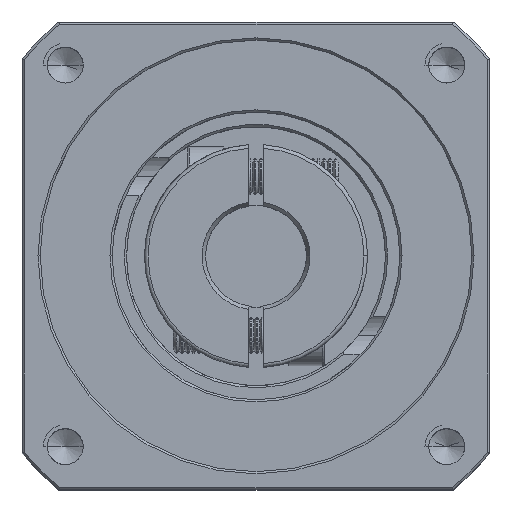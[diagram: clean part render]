
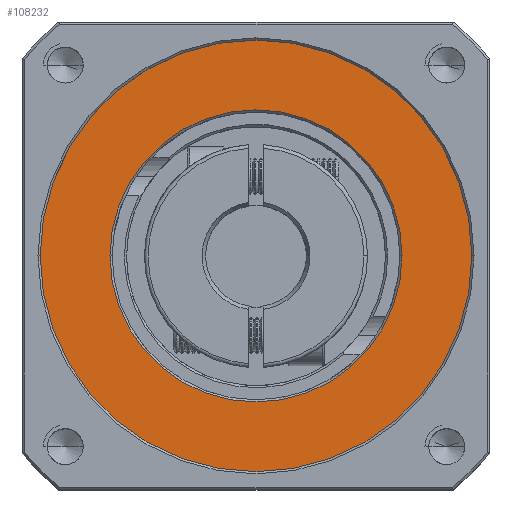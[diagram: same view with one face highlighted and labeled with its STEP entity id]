
A CAD part, top view. The second image highlights one B-rep face of the part: STEP entity #108232.
In plain terms, the highlighted planar face has unit normal (0, 0, 1).
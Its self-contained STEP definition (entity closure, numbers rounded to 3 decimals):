
#1067 = EDGE_CURVE ( 'NONE', #29381, #48872, #59379, .T. ) ;
#5656 = ORIENTED_EDGE ( 'NONE', *, *, #1067, .T. ) ;
#7263 = CARTESIAN_POINT ( 'NONE',  ( -43.269, 30.892, -1.973 ) ) ;
#7903 = CIRCLE ( 'NONE', #94607, 30. ) ;
#11936 = CARTESIAN_POINT ( 'NONE',  ( -22.969, 30.892, -1.973 ) ) ;
#13146 = CIRCLE ( 'NONE', #32726, 20.3 ) ;
#13423 = CARTESIAN_POINT ( 'NONE',  ( -43.269, 30.892, -1.973 ) ) ;
#13731 = CARTESIAN_POINT ( 'NONE',  ( -43.269, 30.892, -1.973 ) ) ;
#14299 = CIRCLE ( 'NONE', #109274, 20.3 ) ;
#14578 = EDGE_CURVE ( 'NONE', #48872, #29381, #7903, .T. ) ;
#14721 = ORIENTED_EDGE ( 'NONE', *, *, #60276, .T. ) ;
#20872 = EDGE_LOOP ( 'NONE', ( #5656, #34735 ) ) ;
#22278 = DIRECTION ( 'NONE',  ( 1., 0., 0. ) ) ;
#25704 = DIRECTION ( 'NONE',  ( 0., 0., 1. ) ) ;
#29381 = VERTEX_POINT ( 'NONE', #35975 ) ;
#29426 = FACE_OUTER_BOUND ( 'NONE', #20872, .T. ) ;
#32726 = AXIS2_PLACEMENT_3D ( 'NONE', #7263, #66705, #82556 ) ;
#34735 = ORIENTED_EDGE ( 'NONE', *, *, #14578, .T. ) ;
#35975 = CARTESIAN_POINT ( 'NONE',  ( -13.269, 30.892, -1.973 ) ) ;
#37607 = CARTESIAN_POINT ( 'NONE',  ( -63.569, 30.892, -1.973 ) ) ;
#42959 = EDGE_LOOP ( 'NONE', ( #14721, #86239 ) ) ;
#48872 = VERTEX_POINT ( 'NONE', #107858 ) ;
#56888 = PLANE ( 'NONE',  #108688 ) ;
#59379 = CIRCLE ( 'NONE', #67624, 30. ) ;
#60276 = EDGE_CURVE ( 'NONE', #66422, #107479, #13146, .T. ) ;
#65440 = DIRECTION ( 'NONE',  ( 0., 0., 1. ) ) ;
#66422 = VERTEX_POINT ( 'NONE', #11936 ) ;
#66705 = DIRECTION ( 'NONE',  ( 0., 0., -1. ) ) ;
#67624 = AXIS2_PLACEMENT_3D ( 'NONE', #79048, #86467, #70917 ) ;
#70917 = DIRECTION ( 'NONE',  ( 1., 0., 0. ) ) ;
#72868 = DIRECTION ( 'NONE',  ( 0., 0., -1. ) ) ;
#79048 = CARTESIAN_POINT ( 'NONE',  ( -43.269, 30.892, -1.973 ) ) ;
#82556 = DIRECTION ( 'NONE',  ( 1., 0., 0. ) ) ;
#83706 = EDGE_CURVE ( 'NONE', #107479, #66422, #14299, .T. ) ;
#86239 = ORIENTED_EDGE ( 'NONE', *, *, #83706, .T. ) ;
#86467 = DIRECTION ( 'NONE',  ( 0., 0., 1. ) ) ;
#88788 = FACE_BOUND ( 'NONE', #42959, .T. ) ;
#93270 = CARTESIAN_POINT ( 'NONE',  ( -43.269, 30.892, -1.973 ) ) ;
#94607 = AXIS2_PLACEMENT_3D ( 'NONE', #93270, #25704, #100583 ) ;
#99712 = DIRECTION ( 'NONE',  ( 1., 0., 0. ) ) ;
#100583 = DIRECTION ( 'NONE',  ( 1., 0., 0. ) ) ;
#107479 = VERTEX_POINT ( 'NONE', #37607 ) ;
#107858 = CARTESIAN_POINT ( 'NONE',  ( -73.269, 30.892, -1.973 ) ) ;
#108232 = ADVANCED_FACE ( 'NONE', ( #88788, #29426 ), #56888, .T. ) ;
#108688 = AXIS2_PLACEMENT_3D ( 'NONE', #13731, #65440, #99712 ) ;
#109274 = AXIS2_PLACEMENT_3D ( 'NONE', #13423, #72868, #22278 ) ;
